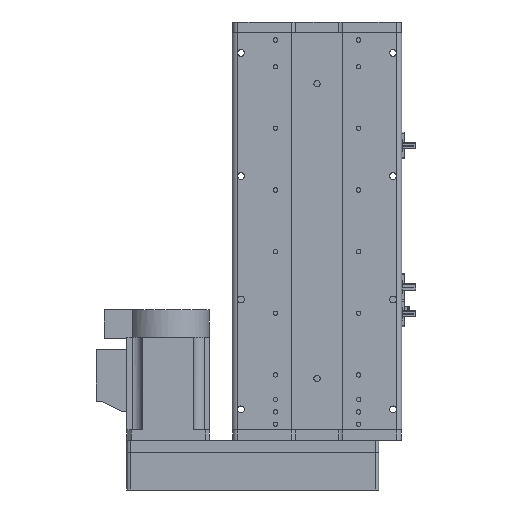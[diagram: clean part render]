
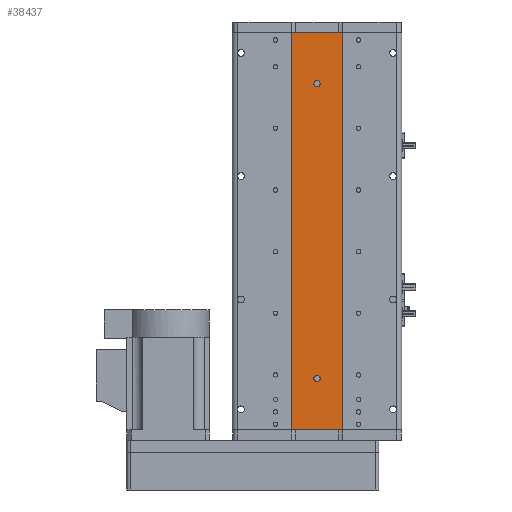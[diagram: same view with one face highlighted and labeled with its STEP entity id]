
A CAD part, front view. The second image highlights one B-rep face of the part: STEP entity #38437.
In plain terms, the highlighted planar face has unit normal (0, -1, 0).
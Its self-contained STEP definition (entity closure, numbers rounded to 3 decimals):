
#97 = VERTEX_POINT ( 'NONE', #38904 ) ;
#2120 = AXIS2_PLACEMENT_3D ( 'NONE', #3643, #34565, #8070 ) ;
#2586 = CARTESIAN_POINT ( 'NONE',  ( 0., 1., 140.5 ) ) ;
#3052 = ORIENTED_EDGE ( 'NONE', *, *, #19141, .F. ) ;
#3643 = CARTESIAN_POINT ( 'NONE',  ( 0., 1., -143.5 ) ) ;
#3697 = VERTEX_POINT ( 'NONE', #2586 ) ;
#4121 = DIRECTION ( 'NONE',  ( 0., 1., 0. ) ) ;
#4485 = CARTESIAN_POINT ( 'NONE',  ( -25., 1., 193.5 ) ) ;
#5010 = EDGE_CURVE ( 'NONE', #21720, #39650, #43808, .T. ) ;
#6856 = CARTESIAN_POINT ( 'NONE',  ( 0., 1., 143.5 ) ) ;
#8070 = DIRECTION ( 'NONE',  ( 0., 0., -1. ) ) ;
#8225 = AXIS2_PLACEMENT_3D ( 'NONE', #17479, #4121, #21898 ) ;
#9698 = EDGE_CURVE ( 'NONE', #22560, #97, #40360, .T. ) ;
#10217 = EDGE_LOOP ( 'NONE', ( #36011, #30947 ) ) ;
#10243 = CARTESIAN_POINT ( 'NONE',  ( 0., 1., -143.5 ) ) ;
#10960 = VERTEX_POINT ( 'NONE', #25456 ) ;
#11276 = DIRECTION ( 'NONE',  ( 0., 0., -1. ) ) ;
#11919 = EDGE_CURVE ( 'NONE', #15953, #21720, #42897, .T. ) ;
#12871 = CARTESIAN_POINT ( 'NONE',  ( 25., 1., -193.5 ) ) ;
#12996 = PLANE ( 'NONE',  #8225 ) ;
#14539 = CIRCLE ( 'NONE', #43883, 3. ) ;
#14761 = DIRECTION ( 'NONE',  ( 0., 0., -1. ) ) ;
#14845 = EDGE_CURVE ( 'NONE', #3697, #15872, #14539, .T. ) ;
#15359 = LINE ( 'NONE', #19956, #27138 ) ;
#15872 = VERTEX_POINT ( 'NONE', #52801 ) ;
#15953 = VERTEX_POINT ( 'NONE', #4485 ) ;
#16463 = CARTESIAN_POINT ( 'NONE',  ( -25., 1., -193.5 ) ) ;
#17479 = CARTESIAN_POINT ( 'NONE',  ( 25., 1., 193.5 ) ) ;
#17632 = AXIS2_PLACEMENT_3D ( 'NONE', #10243, #41226, #14761 ) ;
#18261 = ORIENTED_EDGE ( 'NONE', *, *, #41246, .F. ) ;
#18369 = EDGE_LOOP ( 'NONE', ( #48729, #18261, #3052, #43730 ) ) ;
#18889 = VECTOR ( 'NONE', #26707, 1000. ) ;
#19141 = EDGE_CURVE ( 'NONE', #15953, #10960, #40789, .T. ) ;
#19954 = CIRCLE ( 'NONE', #43603, 3. ) ;
#19956 = CARTESIAN_POINT ( 'NONE',  ( 25., 1., 193.5 ) ) ;
#20385 = FACE_BOUND ( 'NONE', #10217, .T. ) ;
#20606 = CARTESIAN_POINT ( 'NONE',  ( 0., 1., 143.5 ) ) ;
#21720 = VERTEX_POINT ( 'NONE', #16463 ) ;
#21898 = DIRECTION ( 'NONE',  ( 0., 0., 1. ) ) ;
#22560 = VERTEX_POINT ( 'NONE', #31270 ) ;
#23544 = VECTOR ( 'NONE', #56717, 1000. ) ;
#25074 = DIRECTION ( 'NONE',  ( 0., 0., -1. ) ) ;
#25456 = CARTESIAN_POINT ( 'NONE',  ( 25., 1., 193.5 ) ) ;
#25536 = ORIENTED_EDGE ( 'NONE', *, *, #9698, .F. ) ;
#25821 = CARTESIAN_POINT ( 'NONE',  ( -25., 1., 193.5 ) ) ;
#26707 = DIRECTION ( 'NONE',  ( 1., 0., 0. ) ) ;
#27138 = VECTOR ( 'NONE', #42217, 1000. ) ;
#29035 = CARTESIAN_POINT ( 'NONE',  ( 25., 1., 193.5 ) ) ;
#30947 = ORIENTED_EDGE ( 'NONE', *, *, #52217, .F. ) ;
#31270 = CARTESIAN_POINT ( 'NONE',  ( 0., 1., -140.5 ) ) ;
#34565 = DIRECTION ( 'NONE',  ( 0., -1., 0. ) ) ;
#36011 = ORIENTED_EDGE ( 'NONE', *, *, #14845, .F. ) ;
#37805 = DIRECTION ( 'NONE',  ( 0., -1., 0. ) ) ;
#38437 = ADVANCED_FACE ( 'NONE', ( #55645, #20385, #54278 ), #12996, .F. ) ;
#38904 = CARTESIAN_POINT ( 'NONE',  ( 0., 1., -146.5 ) ) ;
#39650 = VERTEX_POINT ( 'NONE', #12871 ) ;
#40207 = VECTOR ( 'NONE', #51044, 1000. ) ;
#40360 = CIRCLE ( 'NONE', #2120, 3. ) ;
#40789 = LINE ( 'NONE', #29035, #40207 ) ;
#41226 = DIRECTION ( 'NONE',  ( 0., -1., 0. ) ) ;
#41246 = EDGE_CURVE ( 'NONE', #10960, #39650, #15359, .T. ) ;
#42217 = DIRECTION ( 'NONE',  ( 0., 0., -1. ) ) ;
#42321 = ORIENTED_EDGE ( 'NONE', *, *, #50958, .F. ) ;
#42897 = LINE ( 'NONE', #25821, #23544 ) ;
#43603 = AXIS2_PLACEMENT_3D ( 'NONE', #6856, #37805, #11276 ) ;
#43730 = ORIENTED_EDGE ( 'NONE', *, *, #11919, .T. ) ;
#43808 = LINE ( 'NONE', #52284, #18889 ) ;
#43883 = AXIS2_PLACEMENT_3D ( 'NONE', #20606, #51535, #25074 ) ;
#45730 = CIRCLE ( 'NONE', #17632, 3. ) ;
#48729 = ORIENTED_EDGE ( 'NONE', *, *, #5010, .T. ) ;
#50958 = EDGE_CURVE ( 'NONE', #97, #22560, #45730, .T. ) ;
#51044 = DIRECTION ( 'NONE',  ( 1., 0., 0. ) ) ;
#51535 = DIRECTION ( 'NONE',  ( 0., -1., 0. ) ) ;
#51639 = EDGE_LOOP ( 'NONE', ( #42321, #25536 ) ) ;
#52217 = EDGE_CURVE ( 'NONE', #15872, #3697, #19954, .T. ) ;
#52284 = CARTESIAN_POINT ( 'NONE',  ( 25., 1., -193.5 ) ) ;
#52801 = CARTESIAN_POINT ( 'NONE',  ( 0., 1., 146.5 ) ) ;
#54278 = FACE_OUTER_BOUND ( 'NONE', #18369, .T. ) ;
#55645 = FACE_BOUND ( 'NONE', #51639, .T. ) ;
#56717 = DIRECTION ( 'NONE',  ( 0., 0., -1. ) ) ;
